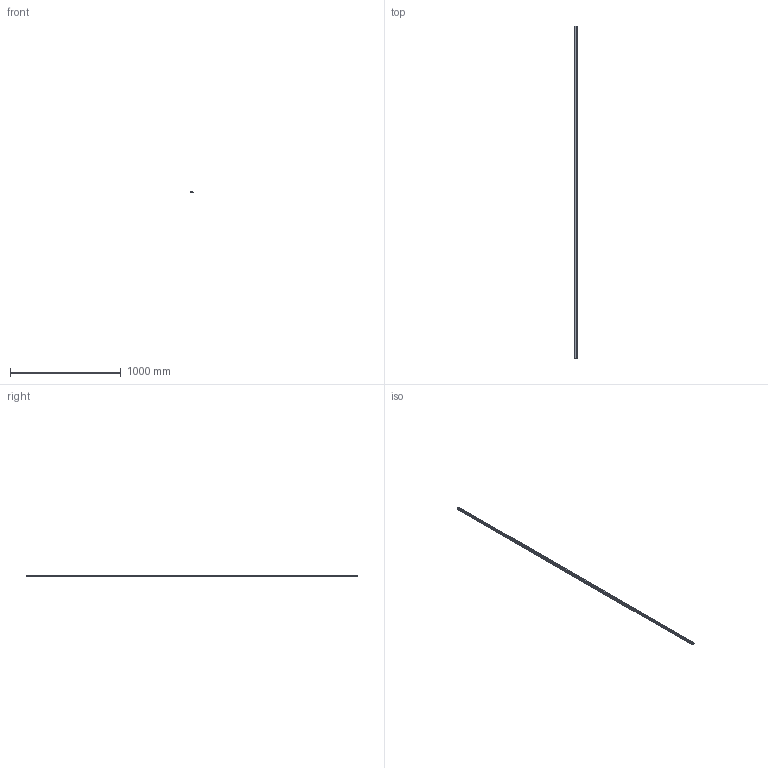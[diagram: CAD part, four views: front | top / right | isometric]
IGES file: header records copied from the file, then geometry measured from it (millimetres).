
Start section: Data from Parasolid IGES Translator 20.0.26, Copyright(c) 2006 Siemens P LM Software. All Rights Reserved.
Global section: file name: 9298796.igs; native system: By Siemens PLM Incorporated; preprocessor: XPlus GENERIC/IGES 20.0.26; author: Noname; organization: Noname; date: 20210827.154115; units: millimetre
Bounding box: 30.5 x 3000 x 18 mm (x, y, z)
Surface area: 517081.5 mm2 (no closed solid volume)
Topology: 0 solids, 0 shells, 44 faces, 252 edges, 252 vertices
Faces by surface type: extrusion 44
